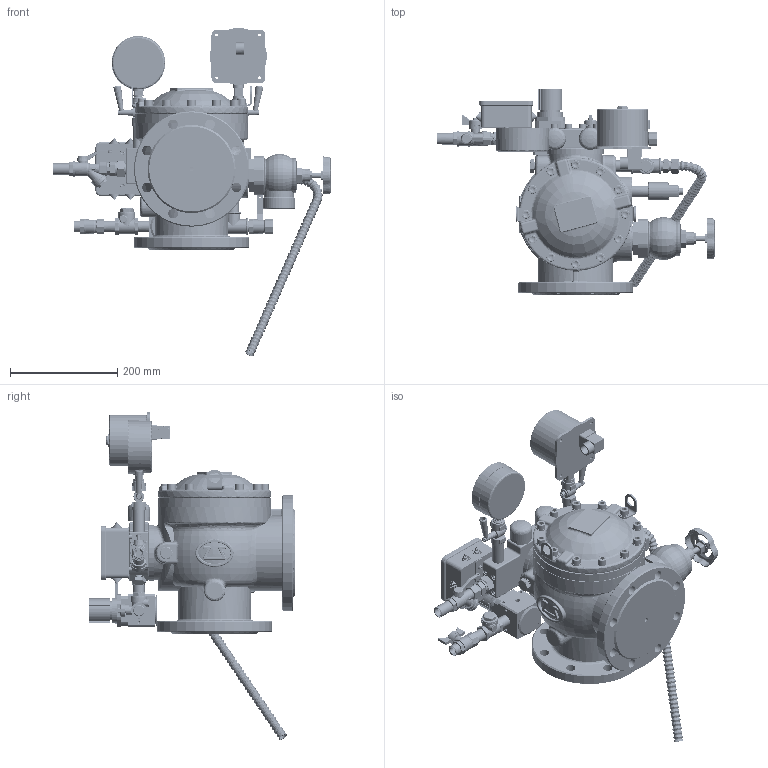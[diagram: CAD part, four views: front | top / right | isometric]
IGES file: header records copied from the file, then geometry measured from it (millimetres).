
Start section: File generated by T-FLEX CAD Version (null)
Global section: file name: 100.igs; native system: T-FLEX CAD; date: 211014.120739; units: millimetre
Bounding box: 517.75 x 383.8 x 610.64 mm (x, y, z)
Volume: 11169074.6 mm3; surface area: 1484700.4 mm2
Topology: 269 solids, 305 shells, 14376 faces, 35519 edges, 21412 vertices
Faces by surface type: plane 5110, cylinder 4524, revolution 1686, bspline 1388, cone 1050, sphere 618
Full cylindrical faces by diameter (mm): 49 x1
